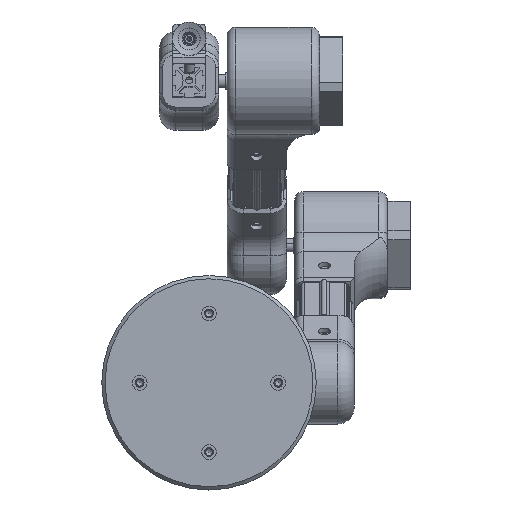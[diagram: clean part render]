
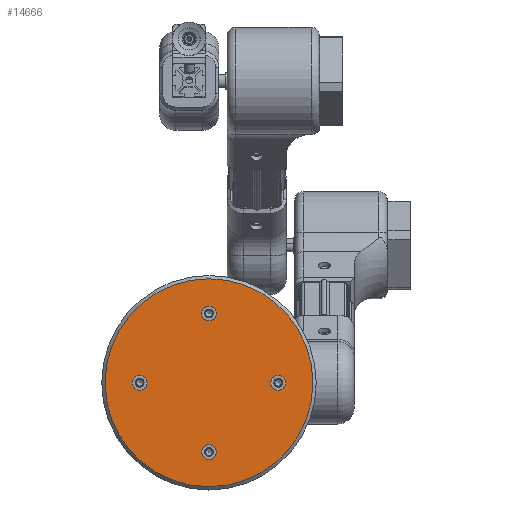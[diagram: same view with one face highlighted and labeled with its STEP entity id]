
A CAD part, front view. The second image highlights one B-rep face of the part: STEP entity #14666.
In plain terms, the highlighted planar face has unit normal (0, -1, 0) as drawn and (0, 1, 0) by its records, which use the part's own axes.
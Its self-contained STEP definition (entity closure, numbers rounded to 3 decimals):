
#963=FACE_BOUND('',#2955,.T.);
#964=FACE_BOUND('',#2956,.T.);
#965=FACE_BOUND('',#2957,.T.);
#966=FACE_BOUND('',#2958,.T.);
#1237=CIRCLE('',#16098,63.);
#1238=CIRCLE('',#16100,4.5);
#1239=CIRCLE('',#16101,4.5);
#1240=CIRCLE('',#16102,4.5);
#1241=CIRCLE('',#16103,4.5);
#2088=FACE_OUTER_BOUND('',#2954,.T.);
#2954=EDGE_LOOP('',(#10178));
#2955=EDGE_LOOP('',(#10179));
#2956=EDGE_LOOP('',(#10180));
#2957=EDGE_LOOP('',(#10181));
#2958=EDGE_LOOP('',(#10182));
#6341=VERTEX_POINT('',#22782);
#6342=VERTEX_POINT('',#22786);
#6343=VERTEX_POINT('',#22788);
#6344=VERTEX_POINT('',#22790);
#6345=VERTEX_POINT('',#22792);
#7861=EDGE_CURVE('',#6341,#6341,#1237,.T.);
#7863=EDGE_CURVE('',#6342,#6342,#1238,.T.);
#7864=EDGE_CURVE('',#6343,#6343,#1239,.T.);
#7865=EDGE_CURVE('',#6344,#6344,#1240,.T.);
#7866=EDGE_CURVE('',#6345,#6345,#1241,.T.);
#10178=ORIENTED_EDGE('',*,*,#7861,.F.);
#10179=ORIENTED_EDGE('',*,*,#7863,.T.);
#10180=ORIENTED_EDGE('',*,*,#7864,.T.);
#10181=ORIENTED_EDGE('',*,*,#7865,.T.);
#10182=ORIENTED_EDGE('',*,*,#7866,.T.);
#14188=PLANE('',#16099);
#14666=ADVANCED_FACE('',(#2088,#963,#964,#965,#966),#14188,.T.);
#16098=AXIS2_PLACEMENT_3D('',#22783,#18116,#18117);
#16099=AXIS2_PLACEMENT_3D('',#22785,#18119,#18120);
#16100=AXIS2_PLACEMENT_3D('',#22787,#18121,#18122);
#16101=AXIS2_PLACEMENT_3D('',#22789,#18123,#18124);
#16102=AXIS2_PLACEMENT_3D('',#22791,#18125,#18126);
#16103=AXIS2_PLACEMENT_3D('',#22793,#18127,#18128);
#18116=DIRECTION('center_axis',(0.,-1.,0.));
#18117=DIRECTION('ref_axis',(-1.,0.,0.));
#18119=DIRECTION('center_axis',(0.,1.,0.));
#18120=DIRECTION('ref_axis',(0.,0.,1.));
#18121=DIRECTION('center_axis',(0.,-1.,0.));
#18122=DIRECTION('ref_axis',(1.,0.,0.));
#18123=DIRECTION('center_axis',(0.,-1.,0.));
#18124=DIRECTION('ref_axis',(0.,0.,-1.));
#18125=DIRECTION('center_axis',(0.,-1.,0.));
#18126=DIRECTION('ref_axis',(-1.,0.,0.));
#18127=DIRECTION('center_axis',(0.,-1.,0.));
#18128=DIRECTION('ref_axis',(0.,0.,1.));
#22782=CARTESIAN_POINT('',(63.,50.,0.));
#22783=CARTESIAN_POINT('Origin',(0.,50.,0.));
#22785=CARTESIAN_POINT('Origin',(0.,50.,0.));
#22786=CARTESIAN_POINT('',(37.5,50.,0.));
#22787=CARTESIAN_POINT('Origin',(42.,50.,0.));
#22788=CARTESIAN_POINT('',(0.,50.,-37.5));
#22789=CARTESIAN_POINT('Origin',(0.,50.,-42.));
#22790=CARTESIAN_POINT('',(-37.5,50.,0.));
#22791=CARTESIAN_POINT('Origin',(-42.,50.,0.));
#22792=CARTESIAN_POINT('',(0.,50.,37.5));
#22793=CARTESIAN_POINT('Origin',(0.,50.,42.));
